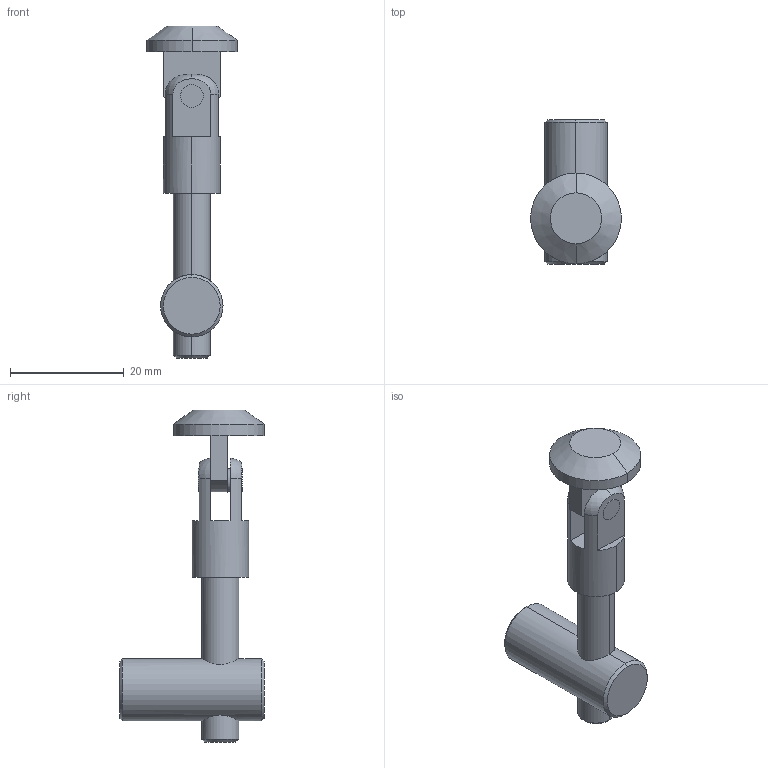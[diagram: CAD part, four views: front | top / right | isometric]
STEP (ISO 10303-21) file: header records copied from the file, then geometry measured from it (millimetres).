
FILE_DESCRIPTION (( 'STEP AP203' ), '1' );
FILE_NAME ('5123.STEP', '2016-10-02T15:27:36', ( '' ), ( '' ), 'SwSTEP 2.0', 'SolidWorks 2014', '' );
FILE_SCHEMA (( 'CONFIG_CONTROL_DESIGN' ));
Length unit declared in the file: millimetre
Products named in the file (5): 3; 4; 5123; 2; shlyapa
Assembly tree (4 placements, depth 2):
  5123
    2
    3
    4
    shlyapa
Bounding box: 16 x 25.5 x 58.49 mm (x, y, z)
Volume: 5010 mm3; surface area: 4216.4 mm2
Topology: 5 solids, 5 shells, 73 faces, 165 edges, 102 vertices
Faces by surface type: plane 30, cylinder 25, cone 10, torus 8
Entity records: 2918 total; most frequent: CARTESIAN_POINT 785, DIRECTION 347, ORIENTED_EDGE 330, EDGE_CURVE 165, AXIS2_PLACEMENT_3D 134, VERTEX_POINT 102, LINE 79, VECTOR 79
